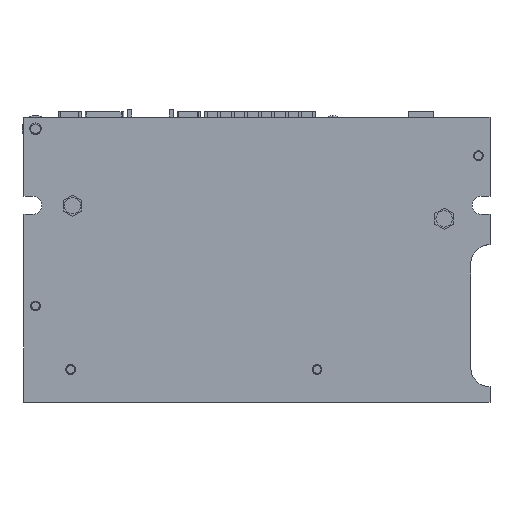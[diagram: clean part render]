
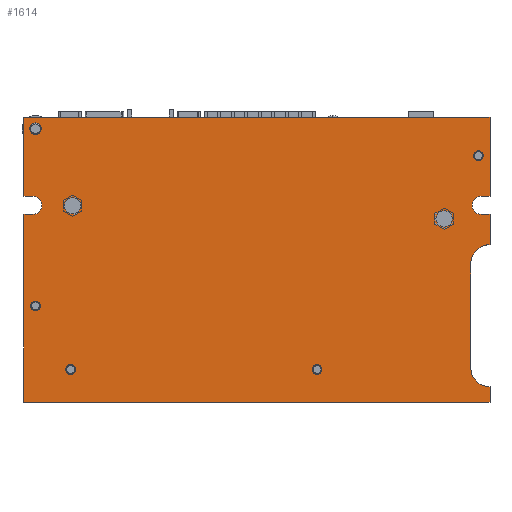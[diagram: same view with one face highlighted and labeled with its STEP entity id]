
A CAD part, top view. The second image highlights one B-rep face of the part: STEP entity #1614.
In plain terms, the highlighted planar face has unit normal (0, 0, 1).
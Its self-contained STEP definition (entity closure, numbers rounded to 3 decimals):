
#59=DIRECTION('',(0.,-1.,0.));
#60=VECTOR('',#59,48.75);
#61=CARTESIAN_POINT('',(-60.5,48.75,0.));
#62=LINE('',#61,#60);
#143=DIRECTION('',(0.,-1.,0.));
#144=VECTOR('',#143,20.55);
#145=CARTESIAN_POINT('',(-60.5,74.,0.));
#146=LINE('',#145,#144);
#164=DIRECTION('',(1.,0.,0.));
#165=VECTOR('',#164,121.);
#166=CARTESIAN_POINT('',(-60.5,0.,0.));
#167=LINE('',#166,#165);
#240=CARTESIAN_POINT('',(-48.4,8.5,0.));
#241=DIRECTION('',(0.,0.,1.));
#242=DIRECTION('',(1.,0.,0.));
#243=AXIS2_PLACEMENT_3D('',#240,#241,#242);
#248=CARTESIAN_POINT('',(-48.4,8.5,0.));
#249=DIRECTION('',(0.,0.,1.));
#250=DIRECTION('',(-1.,0.,0.));
#251=AXIS2_PLACEMENT_3D('',#248,#249,#250);
#256=CARTESIAN_POINT('',(15.6,8.5,0.));
#257=DIRECTION('',(0.,0.,1.));
#258=DIRECTION('',(1.,0.,0.));
#259=AXIS2_PLACEMENT_3D('',#256,#257,#258);
#264=CARTESIAN_POINT('',(15.6,8.5,0.));
#265=DIRECTION('',(0.,0.,1.));
#266=DIRECTION('',(-1.,0.,0.));
#267=AXIS2_PLACEMENT_3D('',#264,#265,#266);
#272=CARTESIAN_POINT('',(-47.9,51.,0.));
#273=DIRECTION('',(0.,0.,1.));
#274=DIRECTION('',(1.,0.,0.));
#275=AXIS2_PLACEMENT_3D('',#272,#273,#274);
#280=CARTESIAN_POINT('',(-47.9,51.,0.));
#281=DIRECTION('',(0.,0.,1.));
#282=DIRECTION('',(-1.,0.,0.));
#283=AXIS2_PLACEMENT_3D('',#280,#281,#282);
#288=CARTESIAN_POINT('',(48.6,47.6,0.));
#289=DIRECTION('',(0.,0.,1.));
#290=DIRECTION('',(1.,0.,0.));
#291=AXIS2_PLACEMENT_3D('',#288,#289,#290);
#296=CARTESIAN_POINT('',(48.6,47.6,0.));
#297=DIRECTION('',(0.,0.,1.));
#298=DIRECTION('',(-1.,0.,0.));
#299=AXIS2_PLACEMENT_3D('',#296,#297,#298);
#304=CARTESIAN_POINT('',(-57.5,71.,0.));
#305=DIRECTION('',(0.,0.,1.));
#306=DIRECTION('',(1.,0.,0.));
#307=AXIS2_PLACEMENT_3D('',#304,#305,#306);
#312=CARTESIAN_POINT('',(-57.5,71.,0.));
#313=DIRECTION('',(0.,0.,1.));
#314=DIRECTION('',(-1.,0.,0.));
#315=AXIS2_PLACEMENT_3D('',#312,#313,#314);
#320=CARTESIAN_POINT('',(-57.5,25.,0.));
#321=DIRECTION('',(0.,0.,1.));
#322=DIRECTION('',(1.,0.,0.));
#323=AXIS2_PLACEMENT_3D('',#320,#321,#322);
#328=CARTESIAN_POINT('',(-57.5,25.,0.));
#329=DIRECTION('',(0.,0.,1.));
#330=DIRECTION('',(-1.,0.,0.));
#331=AXIS2_PLACEMENT_3D('',#328,#329,#330);
#336=CARTESIAN_POINT('',(57.5,64.,0.));
#337=DIRECTION('',(0.,0.,1.));
#338=DIRECTION('',(1.,0.,0.));
#339=AXIS2_PLACEMENT_3D('',#336,#337,#338);
#344=CARTESIAN_POINT('',(57.5,64.,0.));
#345=DIRECTION('',(0.,0.,1.));
#346=DIRECTION('',(-1.,0.,0.));
#347=AXIS2_PLACEMENT_3D('',#344,#345,#346);
#352=DIRECTION('',(0.,1.,0.));
#353=VECTOR('',#352,26.9);
#354=CARTESIAN_POINT('',(55.5,9.,0.));
#355=LINE('',#354,#353);
#359=DIRECTION('',(1.,0.,0.));
#360=VECTOR('',#359,2.3);
#361=CARTESIAN_POINT('',(-60.5,48.75,0.));
#362=LINE('',#361,#360);
#366=CARTESIAN_POINT('',(-58.2,51.1,0.));
#367=DIRECTION('',(0.,0.,-1.));
#368=DIRECTION('',(0.,1.,0.));
#369=AXIS2_PLACEMENT_3D('',#366,#367,#368);
#374=DIRECTION('',(1.,0.,0.));
#375=VECTOR('',#374,2.3);
#376=CARTESIAN_POINT('',(-60.5,53.45,0.));
#377=LINE('',#376,#375);
#381=DIRECTION('',(1.,0.,0.));
#382=VECTOR('',#381,121.);
#383=CARTESIAN_POINT('',(-60.5,74.,0.));
#384=LINE('',#383,#382);
#388=DIRECTION('',(-1.,0.,0.));
#389=VECTOR('',#388,2.3);
#390=CARTESIAN_POINT('',(60.5,53.45,0.));
#391=LINE('',#390,#389);
#395=CARTESIAN_POINT('',(58.2,51.1,0.));
#396=DIRECTION('',(0.,0.,-1.));
#397=DIRECTION('',(0.,-1.,0.));
#398=AXIS2_PLACEMENT_3D('',#395,#396,#397);
#403=DIRECTION('',(-1.,0.,0.));
#404=VECTOR('',#403,2.3);
#405=CARTESIAN_POINT('',(60.5,48.75,0.));
#406=LINE('',#405,#404);
#920=DIRECTION('',(0.,-1.,0.));
#921=VECTOR('',#920,20.55);
#922=CARTESIAN_POINT('',(60.5,74.,0.));
#923=LINE('',#922,#921);
#983=DIRECTION('',(0.,-1.,0.));
#984=VECTOR('',#983,4.);
#985=CARTESIAN_POINT('',(60.5,4.,0.));
#986=LINE('',#985,#984);
#997=DIRECTION('',(0.,-1.,0.));
#998=VECTOR('',#997,7.85);
#999=CARTESIAN_POINT('',(60.5,48.75,0.));
#1000=LINE('',#999,#998);
#1061=CARTESIAN_POINT('',(60.5,9.,0.));
#1062=DIRECTION('',(0.,0.,-1.));
#1063=DIRECTION('',(0.,-1.,0.));
#1064=AXIS2_PLACEMENT_3D('',#1061,#1062,#1063);
#1091=CARTESIAN_POINT('',(60.5,35.9,0.));
#1092=DIRECTION('',(0.,0.,-1.));
#1093=DIRECTION('',(-1.,0.,0.));
#1094=AXIS2_PLACEMENT_3D('',#1091,#1092,#1093);
#1203=CARTESIAN_POINT('',(-60.5,74.,0.));
#1205=VERTEX_POINT('',#1203);
#1211=CARTESIAN_POINT('',(60.5,74.,0.));
#1213=VERTEX_POINT('',#1211);
#1214=CARTESIAN_POINT('',(-60.5,0.,0.));
#1215=CARTESIAN_POINT('',(60.5,0.,0.));
#1216=VERTEX_POINT('',#1214);
#1217=VERTEX_POINT('',#1215);
#1218=CARTESIAN_POINT('',(-47.15,8.5,0.));
#1219=CARTESIAN_POINT('',(-49.65,8.5,0.));
#1220=VERTEX_POINT('',#1218);
#1221=VERTEX_POINT('',#1219);
#1226=CARTESIAN_POINT('',(16.85,8.5,0.));
#1227=CARTESIAN_POINT('',(14.35,8.5,0.));
#1228=VERTEX_POINT('',#1226);
#1229=VERTEX_POINT('',#1227);
#1238=CARTESIAN_POINT('',(-45.775,51.,0.));
#1239=CARTESIAN_POINT('',(-50.025,51.,0.));
#1240=VERTEX_POINT('',#1238);
#1241=VERTEX_POINT('',#1239);
#1246=CARTESIAN_POINT('',(50.725,47.6,0.));
#1247=CARTESIAN_POINT('',(46.475,47.6,0.));
#1248=VERTEX_POINT('',#1246);
#1249=VERTEX_POINT('',#1247);
#1268=CARTESIAN_POINT('',(-56.,71.,0.));
#1269=CARTESIAN_POINT('',(-59.,71.,0.));
#1270=VERTEX_POINT('',#1268);
#1271=VERTEX_POINT('',#1269);
#1276=CARTESIAN_POINT('',(-56.25,25.,0.));
#1277=CARTESIAN_POINT('',(-58.75,25.,0.));
#1278=VERTEX_POINT('',#1276);
#1279=VERTEX_POINT('',#1277);
#1284=CARTESIAN_POINT('',(58.75,64.,0.));
#1285=CARTESIAN_POINT('',(56.25,64.,0.));
#1286=VERTEX_POINT('',#1284);
#1287=VERTEX_POINT('',#1285);
#1288=CARTESIAN_POINT('',(-60.5,53.45,0.));
#1290=VERTEX_POINT('',#1288);
#1292=CARTESIAN_POINT('',(-60.5,48.75,0.));
#1294=VERTEX_POINT('',#1292);
#1300=CARTESIAN_POINT('',(-58.2,53.45,0.));
#1301=VERTEX_POINT('',#1300);
#1302=CARTESIAN_POINT('',(-58.2,48.75,0.));
#1303=VERTEX_POINT('',#1302);
#1312=CARTESIAN_POINT('',(58.2,48.75,0.));
#1313=VERTEX_POINT('',#1312);
#1314=CARTESIAN_POINT('',(58.2,53.45,0.));
#1315=VERTEX_POINT('',#1314);
#1316=CARTESIAN_POINT('',(60.5,48.75,0.));
#1317=VERTEX_POINT('',#1316);
#1318=CARTESIAN_POINT('',(60.5,53.45,0.));
#1319=VERTEX_POINT('',#1318);
#1397=CARTESIAN_POINT('',(55.5,9.,0.));
#1399=VERTEX_POINT('',#1397);
#1401=CARTESIAN_POINT('',(60.5,4.,0.));
#1403=VERTEX_POINT('',#1401);
#1405=CARTESIAN_POINT('',(60.5,40.9,0.));
#1407=VERTEX_POINT('',#1405);
#1409=CARTESIAN_POINT('',(55.5,35.9,0.));
#1411=VERTEX_POINT('',#1409);
#1536=CARTESIAN_POINT('',(-60.5,74.,0.));
#1537=DIRECTION('',(0.,0.,1.));
#1538=DIRECTION('',(0.,-1.,0.));
#1539=AXIS2_PLACEMENT_3D('',#1536,#1537,#1538);
#1540=PLANE('',#1539);
#1542=ORIENTED_EDGE('',*,*,#1541,.T.);
#1544=ORIENTED_EDGE('',*,*,#1543,.F.);
#1546=ORIENTED_EDGE('',*,*,#1545,.F.);
#1548=ORIENTED_EDGE('',*,*,#1547,.F.);
#1550=ORIENTED_EDGE('',*,*,#1549,.T.);
#1551=ORIENTED_EDGE('',*,*,#1502,.F.);
#1552=ORIENTED_EDGE('',*,*,#1433,.F.);
#1554=ORIENTED_EDGE('',*,*,#1553,.T.);
#1556=ORIENTED_EDGE('',*,*,#1555,.F.);
#1558=ORIENTED_EDGE('',*,*,#1557,.F.);
#1559=ORIENTED_EDGE('',*,*,#1473,.F.);
#1561=ORIENTED_EDGE('',*,*,#1560,.T.);
#1563=ORIENTED_EDGE('',*,*,#1562,.T.);
#1565=ORIENTED_EDGE('',*,*,#1564,.T.);
#1567=ORIENTED_EDGE('',*,*,#1566,.F.);
#1569=ORIENTED_EDGE('',*,*,#1568,.F.);
#1570=EDGE_LOOP('',(#1542,#1544,#1546,#1548,#1550,#1551,#1552,#1554,#1556,#1558,
#1559,#1561,#1563,#1565,#1567,#1569));
#1571=FACE_OUTER_BOUND('',#1570,.F.);
#1573=ORIENTED_EDGE('',*,*,#1572,.T.);
#1575=ORIENTED_EDGE('',*,*,#1574,.T.);
#1576=EDGE_LOOP('',(#1573,#1575));
#1577=FACE_BOUND('',#1576,.F.);
#1579=ORIENTED_EDGE('',*,*,#1578,.T.);
#1581=ORIENTED_EDGE('',*,*,#1580,.T.);
#1582=EDGE_LOOP('',(#1579,#1581));
#1583=FACE_BOUND('',#1582,.F.);
#1585=ORIENTED_EDGE('',*,*,#1584,.T.);
#1587=ORIENTED_EDGE('',*,*,#1586,.T.);
#1588=EDGE_LOOP('',(#1585,#1587));
#1589=FACE_BOUND('',#1588,.F.);
#1591=ORIENTED_EDGE('',*,*,#1590,.T.);
#1593=ORIENTED_EDGE('',*,*,#1592,.T.);
#1594=EDGE_LOOP('',(#1591,#1593));
#1595=FACE_BOUND('',#1594,.F.);
#1597=ORIENTED_EDGE('',*,*,#1596,.T.);
#1599=ORIENTED_EDGE('',*,*,#1598,.T.);
#1600=EDGE_LOOP('',(#1597,#1599));
#1601=FACE_BOUND('',#1600,.F.);
#1603=ORIENTED_EDGE('',*,*,#1602,.T.);
#1605=ORIENTED_EDGE('',*,*,#1604,.T.);
#1606=EDGE_LOOP('',(#1603,#1605));
#1607=FACE_BOUND('',#1606,.F.);
#1609=ORIENTED_EDGE('',*,*,#1608,.T.);
#1611=ORIENTED_EDGE('',*,*,#1610,.T.);
#1612=EDGE_LOOP('',(#1609,#1611));
#1613=FACE_BOUND('',#1612,.F.);
#244=CIRCLE('',#243,1.25);
#252=CIRCLE('',#251,1.25);
#260=CIRCLE('',#259,1.25);
#268=CIRCLE('',#267,1.25);
#276=CIRCLE('',#275,2.125);
#284=CIRCLE('',#283,2.125);
#292=CIRCLE('',#291,2.125);
#300=CIRCLE('',#299,2.125);
#308=CIRCLE('',#307,1.5);
#316=CIRCLE('',#315,1.5);
#324=CIRCLE('',#323,1.25);
#332=CIRCLE('',#331,1.25);
#340=CIRCLE('',#339,1.25);
#348=CIRCLE('',#347,1.25);
#370=CIRCLE('',#369,2.35);
#399=CIRCLE('',#398,2.35);
#1065=CIRCLE('',#1064,5.);
#1095=CIRCLE('',#1094,5.);
#1433=EDGE_CURVE('',#1294,#1216,#62,.T.);
#1473=EDGE_CURVE('',#1205,#1290,#146,.T.);
#1502=EDGE_CURVE('',#1216,#1217,#167,.T.);
#1541=EDGE_CURVE('',#1317,#1407,#1000,.T.);
#1543=EDGE_CURVE('',#1411,#1407,#1095,.T.);
#1545=EDGE_CURVE('',#1399,#1411,#355,.T.);
#1547=EDGE_CURVE('',#1403,#1399,#1065,.T.);
#1549=EDGE_CURVE('',#1403,#1217,#986,.T.);
#1553=EDGE_CURVE('',#1294,#1303,#362,.T.);
#1555=EDGE_CURVE('',#1301,#1303,#370,.T.);
#1557=EDGE_CURVE('',#1290,#1301,#377,.T.);
#1560=EDGE_CURVE('',#1205,#1213,#384,.T.);
#1562=EDGE_CURVE('',#1213,#1319,#923,.T.);
#1564=EDGE_CURVE('',#1319,#1315,#391,.T.);
#1566=EDGE_CURVE('',#1313,#1315,#399,.T.);
#1568=EDGE_CURVE('',#1317,#1313,#406,.T.);
#1572=EDGE_CURVE('',#1228,#1229,#260,.T.);
#1574=EDGE_CURVE('',#1229,#1228,#268,.T.);
#1578=EDGE_CURVE('',#1240,#1241,#276,.T.);
#1580=EDGE_CURVE('',#1241,#1240,#284,.T.);
#1584=EDGE_CURVE('',#1248,#1249,#292,.T.);
#1586=EDGE_CURVE('',#1249,#1248,#300,.T.);
#1590=EDGE_CURVE('',#1270,#1271,#308,.T.);
#1592=EDGE_CURVE('',#1271,#1270,#316,.T.);
#1596=EDGE_CURVE('',#1278,#1279,#324,.T.);
#1598=EDGE_CURVE('',#1279,#1278,#332,.T.);
#1602=EDGE_CURVE('',#1286,#1287,#340,.T.);
#1604=EDGE_CURVE('',#1287,#1286,#348,.T.);
#1608=EDGE_CURVE('',#1220,#1221,#244,.T.);
#1610=EDGE_CURVE('',#1221,#1220,#252,.T.);
#1614=ADVANCED_FACE('',(#1571,#1577,#1583,#1589,#1595,#1601,#1607,#1613),#1540,
.T.);
